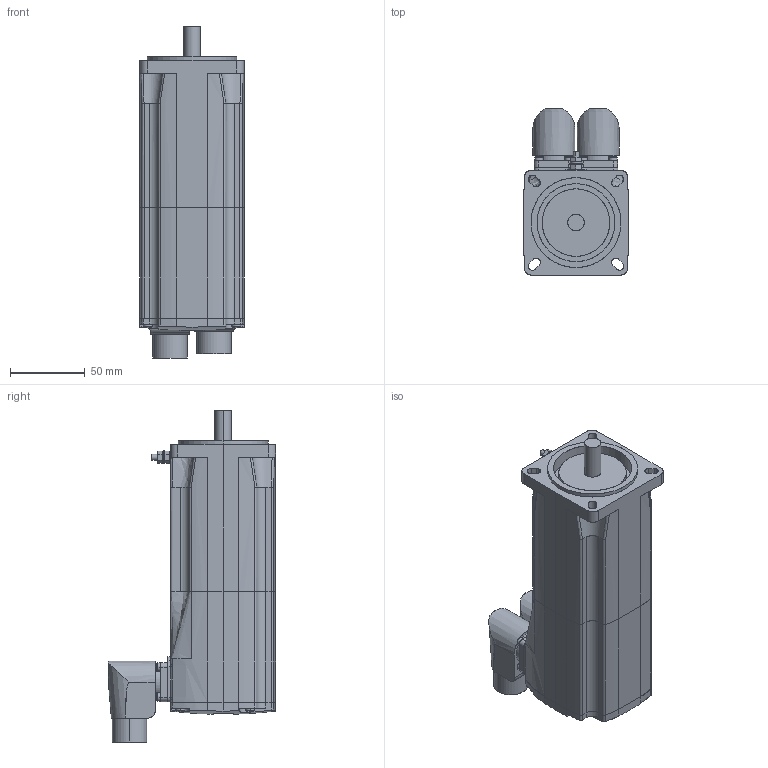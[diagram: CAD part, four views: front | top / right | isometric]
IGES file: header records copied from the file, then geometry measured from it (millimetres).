
Start section: SolidWorks IGES file using analytic representation for surfaces
Global section: file name: C:\PDM\SW-SAP\AA-IGES\SH30701x0xF2100.IGS; native system: SolidWorks 2010; preprocessor: SolidWorks 2010; author: SESA21951; date: 131129.085406; units: millimetre
Bounding box: 70 x 111.4 x 221.45 mm (x, y, z)
Surface area: 94564.2 mm2 (no closed solid volume)
Topology: 0 solids, 0 shells, 464 faces, 6662 edges, 6658 vertices
Faces by surface type: bspline 234, revolution 230
